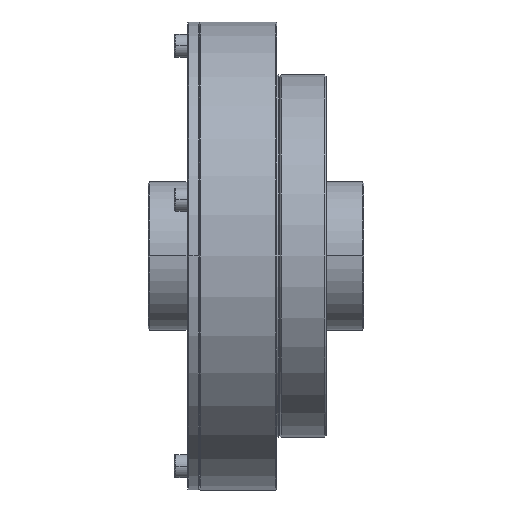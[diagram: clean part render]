
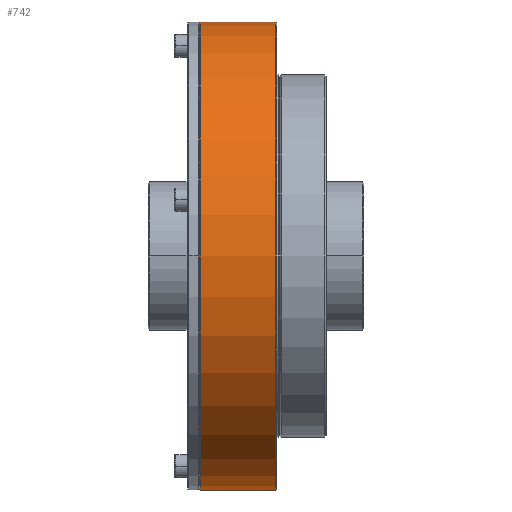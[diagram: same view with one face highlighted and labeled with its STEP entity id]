
A CAD part, front view. The second image highlights one B-rep face of the part: STEP entity #742.
In plain terms, the highlighted cylindrical face has radius 71 mm (diameter 142 mm), a partial arc.
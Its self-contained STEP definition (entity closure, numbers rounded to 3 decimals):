
#742=ADVANCED_FACE('NONE',(#1714),#1715,.T.);
#1714=FACE_OUTER_BOUND('',#3265,.T.);
#1715=CYLINDRICAL_SURFACE('',#3266,71.0);
#3265=EDGE_LOOP('',(#5556,#5557,#5558,#5559));
#3266=AXIS2_PLACEMENT_3D('',#5560,#5561,#5562);
#5556=ORIENTED_EDGE('',*,*,#7802,.F.);
#5557=ORIENTED_EDGE('',*,*,#8460,.T.);
#5558=ORIENTED_EDGE('',*,*,#7804,.T.);
#5559=ORIENTED_EDGE('',*,*,#8461,.T.);
#5560=CARTESIAN_POINT('',(15.3,0.0,0.0));
#5561=DIRECTION('',(-1.0,0.0,0.0));
#5562=DIRECTION('',(0.0,0.0,-1.0));
#7802=EDGE_CURVE('NONE',#9180,#9182,#9183,.T.);
#7804=EDGE_CURVE('NONE',#9179,#9184,#9186,.T.);
#8460=EDGE_CURVE('NONE',#9180,#9179,#10299,.T.);
#8461=EDGE_CURVE('NONE',#9184,#9182,#10300,.T.);
#9179=VERTEX_POINT('NONE',#11465);
#9180=VERTEX_POINT('NONE',#11466);
#9182=VERTEX_POINT('NONE',#11468);
#9183=LINE('',#11469,#11470);
#9184=VERTEX_POINT('NONE',#11471);
#9186=LINE('',#11473,#11474);
#10299=CIRCLE('',#12857,71.0);
#10300=CIRCLE('',#12858,71.0);
#11465=CARTESIAN_POINT('',(3.9,0.0,-71.));
#11466=CARTESIAN_POINT('',(3.9,0.,71.));
#11468=CARTESIAN_POINT('',(26.7,0.0,71.));
#11469=CARTESIAN_POINT('',(15.3,0.,71.0));
#11470=VECTOR('',#14180,1000.0);
#11471=CARTESIAN_POINT('',(26.7,0.,-71.));
#11473=CARTESIAN_POINT('',(15.3,0.0,-71.0));
#11474=VECTOR('',#14184,1000.0);
#12857=AXIS2_PLACEMENT_3D('',#15202,#15203,#15204);
#12858=AXIS2_PLACEMENT_3D('',#15205,#15206,#15207);
#14180=DIRECTION('',(1.0,0.0,0.0));
#14184=DIRECTION('',(1.0,0.0,0.0));
#15202=CARTESIAN_POINT('',(3.9,0.0,0.0));
#15203=DIRECTION('',(1.0,0.0,0.0));
#15204=DIRECTION('',(0.0,0.0,-1.0));
#15205=CARTESIAN_POINT('',(26.7,0.0,0.0));
#15206=DIRECTION('',(-1.0,-0.0,-0.0));
#15207=DIRECTION('',(0.0,0.0,-1.0));
